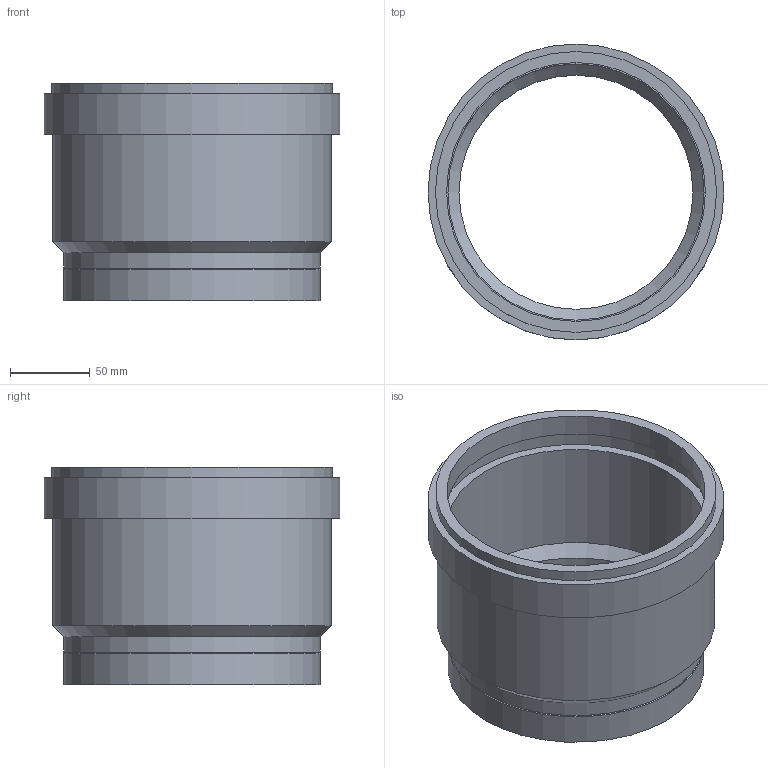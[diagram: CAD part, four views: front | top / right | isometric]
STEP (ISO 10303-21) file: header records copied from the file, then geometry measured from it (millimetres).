
FILE_DESCRIPTION(/* description */ (''),/* implementation_level */ '2;1');
FILE_NAME(/* name */ 'C:\Geberit-Teile\Export 2019\360.779.16.3\stp\369779.stp',/* time_stamp */ '2019-06-06T10:45:40+02:00',/* author */ ('JANAN'),/* organization */ (''),/* preprocessor_version */ 'ST-DEVELOPER v16.13',/* originating_system */ 'Autodesk Inventor 2018',/* authorisation */ '');
FILE_SCHEMA (('AUTOMOTIVE_DESIGN { 1 0 10303 214 3 1 1 }'));
Length unit declared in the file: millimetre
Products named in the file (1): StMuf mit LipDicht PE-HD d160 L13.6
Bounding box: 185.4 x 185.4 x 136.25 mm (x, y, z)
Volume: 537110.3 mm3; surface area: 162921.8 mm2
Topology: 1 solids, 1 shells, 19 faces, 34 edges, 21 vertices
Faces by surface type: cylinder 9, plane 6, cone 4
Full cylindrical faces by diameter (mm): 146.675 x1, 160.475 x2, 160.5 x1, 162.2 x1, 171.6 x1, 174.3 x1, 176 x1, 185.4 x1
Entity records: 446 total; most frequent: DIRECTION 78, CARTESIAN_POINT 58, AXIS2_PLACEMENT_3D 39, EDGE_LOOP 38, ORIENTED_EDGE 38, STYLED_ITEM 20, FACE_BOUND 19, FACE_OUTER_BOUND 19
